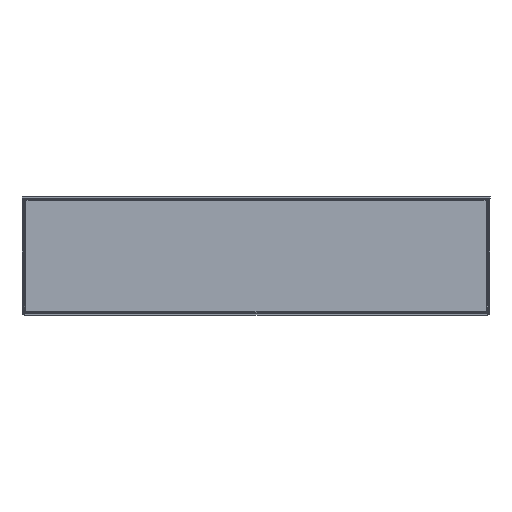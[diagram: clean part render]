
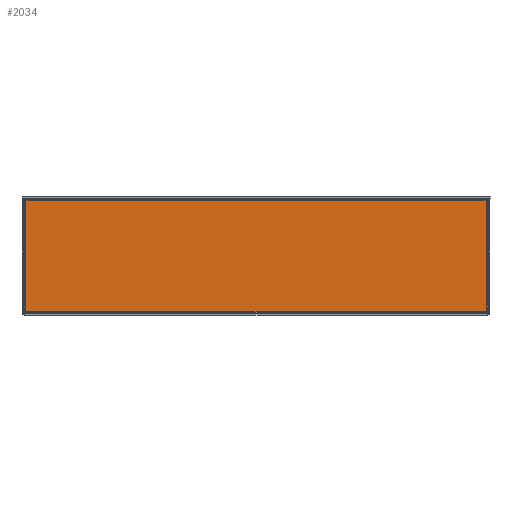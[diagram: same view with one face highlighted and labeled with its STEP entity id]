
A CAD part, front view. The second image highlights one B-rep face of the part: STEP entity #2034.
In plain terms, the highlighted planar face has unit normal (0, -1, 0).
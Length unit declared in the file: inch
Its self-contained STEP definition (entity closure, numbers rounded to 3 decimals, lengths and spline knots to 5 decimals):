
#271 = CARTESIAN_POINT ( 'NONE',  ( 11.43, 0., 5.894 ) ) ;
#285 = VECTOR ( 'NONE', #5716, 39.37008 ) ;
#286 = CARTESIAN_POINT ( 'NONE',  ( 11.43, 0., 5.894 ) ) ;
#287 = LINE ( 'NONE', #286, #285 ) ;
#355 = CARTESIAN_POINT ( 'NONE',  ( 11.43, 0., 5.872 ) ) ;
#748 = CARTESIAN_POINT ( 'NONE',  ( -11.43, 0., 5.872 ) ) ;
#751 = DIRECTION ( 'NONE',  ( 0., 0., -1. ) ) ;
#752 = VECTOR ( 'NONE', #751, 39.37008 ) ;
#753 = CARTESIAN_POINT ( 'NONE',  ( -11.43, 0., 5.894 ) ) ;
#754 = LINE ( 'NONE', #753, #752 ) ;
#760 = CARTESIAN_POINT ( 'NONE',  ( -11.43, 0., 5.894 ) ) ;
#766 = DIRECTION ( 'NONE',  ( 1., 0., 0. ) ) ;
#767 = VECTOR ( 'NONE', #766, 39.37008 ) ;
#768 = CARTESIAN_POINT ( 'NONE',  ( -11.81882, 0., 0.175 ) ) ;
#772 = LINE ( 'NONE', #768, #767 ) ;
#858 = AXIS2_PLACEMENT_3D ( 'NONE', #864, #862, #867 ) ;
#861 = FACE_OUTER_BOUND ( 'NONE', #2061, .T. ) ;
#862 = DIRECTION ( 'NONE',  ( 0., 1., 0. ) ) ;
#863 = PLANE ( 'NONE',  #858 ) ;
#864 = CARTESIAN_POINT ( 'NONE',  ( -11.912, 0., 5.894 ) ) ;
#867 = DIRECTION ( 'NONE',  ( 0., 0., 1. ) ) ;
#891 = CARTESIAN_POINT ( 'NONE',  ( -11.797, 0., 0.175 ) ) ;
#894 = CARTESIAN_POINT ( 'NONE',  ( -11.797, 0., 5.894 ) ) ;
#895 = LINE ( 'NONE', #894, #909 ) ;
#904 = LINE ( 'NONE', #907, #906 ) ;
#905 = DIRECTION ( 'NONE',  ( 0., 0., 1. ) ) ;
#906 = VECTOR ( 'NONE', #905, 39.37008 ) ;
#907 = CARTESIAN_POINT ( 'NONE',  ( 11.797, 0., 0.15318 ) ) ;
#908 = DIRECTION ( 'NONE',  ( 0., 0., -1. ) ) ;
#909 = VECTOR ( 'NONE', #908, 39.37008 ) ;
#913 = LINE ( 'NONE', #921, #920 ) ;
#918 = CARTESIAN_POINT ( 'NONE',  ( -11.797, 0., 5.894 ) ) ;
#919 = DIRECTION ( 'NONE',  ( 1., 0., 0. ) ) ;
#920 = VECTOR ( 'NONE', #919, 39.37008 ) ;
#921 = CARTESIAN_POINT ( 'NONE',  ( 11.912, 0., 5.894 ) ) ;
#926 = DIRECTION ( 'NONE',  ( 1., 0., 0. ) ) ;
#927 = VECTOR ( 'NONE', #926, 39.37008 ) ;
#928 = CARTESIAN_POINT ( 'NONE',  ( -11.912, 0., 5.894 ) ) ;
#929 = LINE ( 'NONE', #928, #927 ) ;
#932 = CARTESIAN_POINT ( 'NONE',  ( 11.797, 0., 5.894 ) ) ;
#933 = DIRECTION ( 'NONE',  ( -1., 0., 0. ) ) ;
#934 = VECTOR ( 'NONE', #933, 39.37008 ) ;
#935 = CARTESIAN_POINT ( 'NONE',  ( 11.797, 0., 0.175 ) ) ;
#936 = CARTESIAN_POINT ( 'NONE',  ( 11.43, 0., 5.872 ) ) ;
#937 = LINE ( 'NONE', #936, #934 ) ;
#1894 = VERTEX_POINT ( 'NONE', #271 ) ;
#1950 = EDGE_CURVE ( 'NONE', #1968, #1894, #287, .T. ) ;
#1968 = VERTEX_POINT ( 'NONE', #355 ) ;
#2023 = VERTEX_POINT ( 'NONE', #748 ) ;
#2025 = VERTEX_POINT ( 'NONE', #760 ) ;
#2026 = EDGE_CURVE ( 'NONE', #2025, #2023, #754, .T. ) ;
#2029 = EDGE_CURVE ( 'NONE', #2041, #2104, #772, .T. ) ;
#2030 = ORIENTED_EDGE ( 'NONE', *, *, #2029, .T. ) ;
#2031 = ORIENTED_EDGE ( 'NONE', *, *, #2078, .F. ) ;
#2034 = ADVANCED_FACE ( 'NONE', ( #861 ), #863, .F. ) ;
#2041 = VERTEX_POINT ( 'NONE', #891 ) ;
#2045 = EDGE_CURVE ( 'NONE', #2104, #2105, #904, .T. ) ;
#2059 = ORIENTED_EDGE ( 'NONE', *, *, #2103, .T. ) ;
#2061 = EDGE_LOOP ( 'NONE', ( #2091, #2059, #2094, #2095, #2098, #2030, #2107, #2031 ) ) ;
#2066 = EDGE_CURVE ( 'NONE', #2093, #2041, #895, .T. ) ;
#2076 = EDGE_CURVE ( 'NONE', #2093, #2025, #929, .T. ) ;
#2078 = EDGE_CURVE ( 'NONE', #1894, #2105, #913, .T. ) ;
#2091 = ORIENTED_EDGE ( 'NONE', *, *, #1950, .F. ) ;
#2093 = VERTEX_POINT ( 'NONE', #918 ) ;
#2094 = ORIENTED_EDGE ( 'NONE', *, *, #2026, .F. ) ;
#2095 = ORIENTED_EDGE ( 'NONE', *, *, #2076, .F. ) ;
#2098 = ORIENTED_EDGE ( 'NONE', *, *, #2066, .T. ) ;
#2103 = EDGE_CURVE ( 'NONE', #1968, #2023, #937, .T. ) ;
#2104 = VERTEX_POINT ( 'NONE', #935 ) ;
#2105 = VERTEX_POINT ( 'NONE', #932 ) ;
#2107 = ORIENTED_EDGE ( 'NONE', *, *, #2045, .T. ) ;
#5716 = DIRECTION ( 'NONE',  ( 0., 0., 1. ) ) ;
